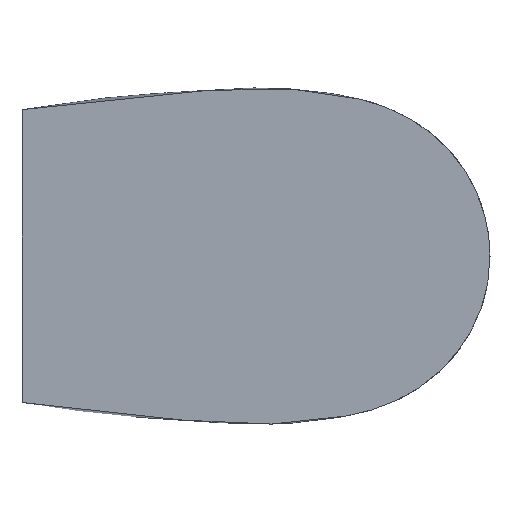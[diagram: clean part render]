
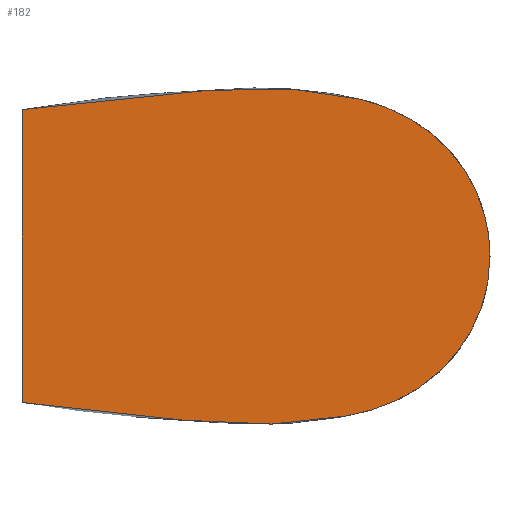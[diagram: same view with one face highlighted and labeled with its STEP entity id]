
A CAD part, left-side view. The second image highlights one B-rep face of the part: STEP entity #182.
In plain terms, the highlighted planar face has unit normal (-1, 0, 0).
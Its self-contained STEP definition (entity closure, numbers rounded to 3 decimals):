
#6=DIRECTION('',(0.,0.,1.));
#7=VECTOR('',#6,1.896);
#8=CARTESIAN_POINT('',(-9.,-0.3,-0.948));
#9=LINE('',#8,#7);
#10=CARTESIAN_POINT('',(-9.,-0.3,0.948));
#11=CARTESIAN_POINT('',(-9.,-0.422,0.969));
#12=CARTESIAN_POINT('',(-9.,-0.605,0.996));
#13=CARTESIAN_POINT('',(-9.,-0.85,1.025));
#14=CARTESIAN_POINT('',(-9.,-1.034,1.042));
#15=CARTESIAN_POINT('',(-9.,-1.22,1.056));
#16=CARTESIAN_POINT('',(-9.,-1.377,1.064));
#17=CARTESIAN_POINT('',(-9.,-1.504,1.072));
#18=CARTESIAN_POINT('',(-9.,-1.635,1.083));
#19=CARTESIAN_POINT('',(-9.,-1.816,1.091));
#20=CARTESIAN_POINT('',(-9.,-2.052,1.084));
#21=CARTESIAN_POINT('',(-9.,-2.264,1.06));
#22=CARTESIAN_POINT('',(-9.,-2.435,1.029));
#23=CARTESIAN_POINT('',(-9.,-2.607,0.988));
#24=CARTESIAN_POINT('',(-9.,-2.773,0.917));
#25=CARTESIAN_POINT('',(-9.,-2.924,0.818));
#26=CARTESIAN_POINT('',(-9.,-3.027,0.729));
#27=CARTESIAN_POINT('',(-9.,-3.117,0.628));
#28=CARTESIAN_POINT('',(-9.,-3.193,0.515));
#29=CARTESIAN_POINT('',(-9.,-3.254,0.394));
#30=CARTESIAN_POINT('',(-9.,-3.297,0.266));
#31=CARTESIAN_POINT('',(-9.,-3.324,0.134));
#32=CARTESIAN_POINT('',(-9.,-3.329,0.044));
#33=CARTESIAN_POINT('',(-9.,-3.329,0.));
#35=CARTESIAN_POINT('',(-9.,-3.329,0.));
#36=CARTESIAN_POINT('',(-9.,-3.329,-0.044));
#37=CARTESIAN_POINT('',(-9.,-3.324,-0.134));
#38=CARTESIAN_POINT('',(-9.,-3.297,-0.266));
#39=CARTESIAN_POINT('',(-9.,-3.254,-0.394));
#40=CARTESIAN_POINT('',(-9.,-3.193,-0.515));
#41=CARTESIAN_POINT('',(-9.,-3.117,-0.628));
#42=CARTESIAN_POINT('',(-9.,-3.027,-0.729));
#43=CARTESIAN_POINT('',(-9.,-2.924,-0.818));
#44=CARTESIAN_POINT('',(-9.,-2.773,-0.917));
#45=CARTESIAN_POINT('',(-9.,-2.607,-0.988));
#46=CARTESIAN_POINT('',(-9.,-2.435,-1.029));
#47=CARTESIAN_POINT('',(-9.,-2.264,-1.06));
#48=CARTESIAN_POINT('',(-9.,-2.052,-1.084));
#49=CARTESIAN_POINT('',(-9.,-1.816,-1.091));
#50=CARTESIAN_POINT('',(-9.,-1.635,-1.083));
#51=CARTESIAN_POINT('',(-9.,-1.504,-1.072));
#52=CARTESIAN_POINT('',(-9.,-1.377,-1.064));
#53=CARTESIAN_POINT('',(-9.,-1.22,-1.056));
#54=CARTESIAN_POINT('',(-9.,-1.034,-1.042));
#55=CARTESIAN_POINT('',(-9.,-0.85,-1.025));
#56=CARTESIAN_POINT('',(-9.,-0.605,-0.996));
#57=CARTESIAN_POINT('',(-9.,-0.422,-0.969));
#58=CARTESIAN_POINT('',(-9.,-0.3,-0.948));
#147=CARTESIAN_POINT('',(-9.,-0.3,-0.948));
#148=CARTESIAN_POINT('',(-9.,-0.3,0.948));
#149=VERTEX_POINT('',#147);
#150=VERTEX_POINT('',#148);
#151=VERTEX_POINT('',#35);
#170=CARTESIAN_POINT('',(-9.,0.,0.));
#171=DIRECTION('',(1.,0.,0.));
#172=DIRECTION('',(0.,0.,-1.));
#173=AXIS2_PLACEMENT_3D('',#170,#171,#172);
#174=PLANE('',#173);
#175=ORIENTED_EDGE('',*,*,#157,.T.);
#177=ORIENTED_EDGE('',*,*,#176,.T.);
#179=ORIENTED_EDGE('',*,*,#178,.T.);
#180=EDGE_LOOP('',(#175,#177,#179));
#181=FACE_OUTER_BOUND('',#180,.F.);
#182=ADVANCED_FACE('',(#181),#174,.F.);
#34=B_SPLINE_CURVE_WITH_KNOTS('',3,(#10,#11,#12,#13,#14,#15,#16,#17,#18,#19,#20,
#21,#22,#23,#24,#25,#26,#27,#28,#29,#30,#31,#32,#33),.UNSPECIFIED.,.F.,.F.,(4,1,
1,1,1,1,1,1,1,1,1,1,1,1,1,1,1,1,1,1,1,4),(0.,0.102,
0.153,0.204,0.255,0.307,
0.334,0.361,0.416,0.484,
0.555,0.592,0.628,0.702,
0.739,0.777,0.814,0.852,
0.889,0.926,0.963,1.),.UNSPECIFIED.);
#59=B_SPLINE_CURVE_WITH_KNOTS('',3,(#35,#36,#37,#38,#39,#40,#41,#42,#43,#44,#45,
#46,#47,#48,#49,#50,#51,#52,#53,#54,#55,#56,#57,#58),.UNSPECIFIED.,.F.,.F.,(4,1,
1,1,1,1,1,1,1,1,1,1,1,1,1,1,1,1,1,1,1,4),(0.,0.037,
0.074,0.111,0.148,0.186,
0.223,0.261,0.298,0.372,
0.408,0.445,0.516,0.584,
0.639,0.666,0.693,0.745,
0.796,0.847,0.898,1.),.UNSPECIFIED.);
#157=EDGE_CURVE('',#149,#150,#9,.T.);
#176=EDGE_CURVE('',#150,#151,#34,.T.);
#178=EDGE_CURVE('',#151,#149,#59,.T.);
